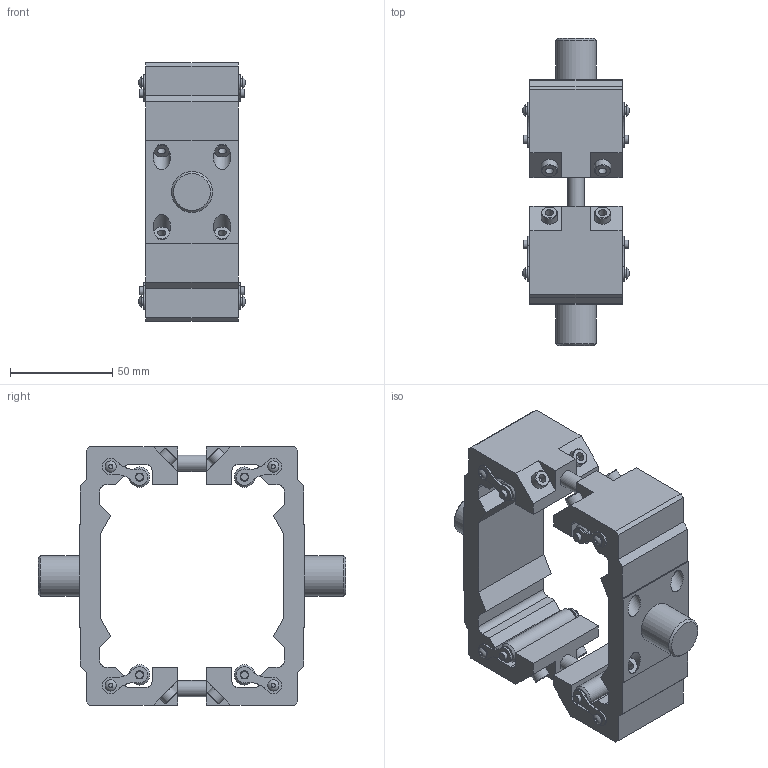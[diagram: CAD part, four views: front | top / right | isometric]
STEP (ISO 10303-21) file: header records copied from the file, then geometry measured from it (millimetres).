
FILE_DESCRIPTION(/* description */ ('STEP AP203'),/* implementation_level */ '2;1');
FILE_NAME(/* name */ 'F-SAI80TCtc',/* time_stamp */ '2024-09-16T14:14:34+02:00',/* author */ ('License CC BY-ND 4.0'),/* organization */ ('CADENAS'),/* preprocessor_version */ 'ST-DEVELOPER v19.3',/* originating_system */ 'PARTsolutions',/* authorisation */ ' ');
FILE_SCHEMA (('CONFIG_CONTROL_DESIGN'));
Length unit declared in the file: millimetre
Products named in the file (1): F-SAI80TCtc
Bounding box: 52 x 150 x 126 mm (x, y, z)
Volume: 228470.3 mm3; surface area: 62895.9 mm2
Topology: 1 solids, 1 shells, 360 faces, 773 edges, 499 vertices
Faces by surface type: plane 186, cylinder 132, cone 34, sphere 8
Full cylindrical faces by diameter (mm): 2 x8, 3.8 x8, 4 x32, 4.1 x8, 5.5 x8, 8 x10, 8.5 x8, 10 x4, 20 x2
Entity records: 9114 total; most frequent: DIRECTION 1686, CARTESIAN_POINT 1485, ORIENTED_EDGE 1268, AXIS2_PLACEMENT_3D 691, EDGE_CURVE 634, EDGE_LOOP 584, FACE_BOUND 584, VERTEX_POINT 490
